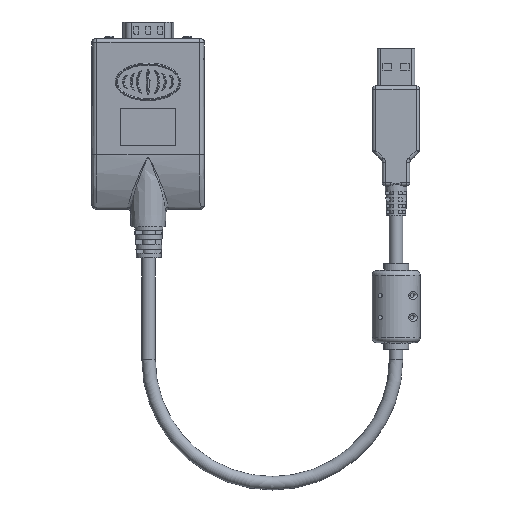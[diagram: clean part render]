
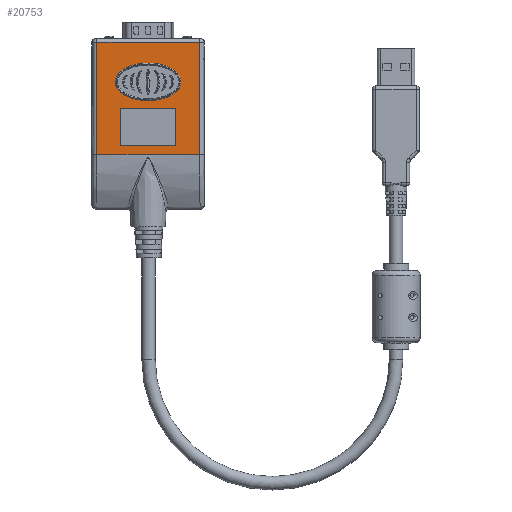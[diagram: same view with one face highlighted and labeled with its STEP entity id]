
A CAD part, front view. The second image highlights one B-rep face of the part: STEP entity #20753.
In plain terms, the highlighted planar face has unit normal (0, -0.999, -0.043).
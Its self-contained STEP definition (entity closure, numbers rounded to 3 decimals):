
#416=FACE_BOUND('',#3747,.T.);
#417=FACE_BOUND('',#3748,.T.);
#1083=PLANE('',#22701);
#1261=ELLIPSE('',#22699,10.5,6.);
#2419=FACE_OUTER_BOUND('',#3746,.T.);
#3746=EDGE_LOOP('',(#18902,#18903,#18904,#18905));
#3747=EDGE_LOOP('',(#18906,#18907,#18908,#18909));
#3748=EDGE_LOOP('',(#18910));
#6419=LINE('',#43467,#7924);
#6423=LINE('',#43475,#7928);
#6426=LINE('',#43481,#7931);
#6429=LINE('',#43486,#7934);
#6538=LINE('',#46642,#8043);
#6539=LINE('',#46644,#8044);
#6540=LINE('',#46646,#8045);
#6541=LINE('',#46647,#8046);
#7924=VECTOR('',#27497,10.);
#7928=VECTOR('',#27503,10.);
#7931=VECTOR('',#27508,10.);
#7934=VECTOR('',#27513,10.);
#8043=VECTOR('',#27944,10.);
#8044=VECTOR('',#27945,10.);
#8045=VECTOR('',#27946,10.);
#8046=VECTOR('',#27947,10.);
#9830=VERTEX_POINT('',#43465);
#9831=VERTEX_POINT('',#43466);
#9834=VERTEX_POINT('',#43474);
#9836=VERTEX_POINT('',#43480);
#10021=VERTEX_POINT('',#46008);
#10030=VERTEX_POINT('',#46640);
#10031=VERTEX_POINT('',#46641);
#10032=VERTEX_POINT('',#46643);
#10033=VERTEX_POINT('',#46645);
#12686=EDGE_CURVE('',#9830,#9831,#6419,.T.);
#12690=EDGE_CURVE('',#9834,#9830,#6423,.T.);
#12693=EDGE_CURVE('',#9836,#9834,#6426,.T.);
#12696=EDGE_CURVE('',#9831,#9836,#6429,.T.);
#12997=EDGE_CURVE('',#10021,#10021,#1261,.T.);
#13020=EDGE_CURVE('',#10030,#10031,#6538,.T.);
#13021=EDGE_CURVE('',#10032,#10030,#6539,.T.);
#13022=EDGE_CURVE('',#10033,#10032,#6540,.T.);
#13023=EDGE_CURVE('',#10031,#10033,#6541,.T.);
#18902=ORIENTED_EDGE('',*,*,#13020,.F.);
#18903=ORIENTED_EDGE('',*,*,#13021,.F.);
#18904=ORIENTED_EDGE('',*,*,#13022,.F.);
#18905=ORIENTED_EDGE('',*,*,#13023,.F.);
#18906=ORIENTED_EDGE('',*,*,#12686,.T.);
#18907=ORIENTED_EDGE('',*,*,#12696,.T.);
#18908=ORIENTED_EDGE('',*,*,#12693,.T.);
#18909=ORIENTED_EDGE('',*,*,#12690,.T.);
#18910=ORIENTED_EDGE('',*,*,#12997,.T.);
#20753=ADVANCED_FACE('',(#2419,#416,#417),#1083,.F.);
#22699=AXIS2_PLACEMENT_3D('',#46010,#27938,#27939);
#22701=AXIS2_PLACEMENT_3D('',#46639,#27942,#27943);
#27497=DIRECTION('',(0.,0.043,-0.999));
#27503=DIRECTION('',(1.,0.,0.));
#27508=DIRECTION('',(0.,-0.043,0.999));
#27513=DIRECTION('',(-1.,0.,0.));
#27938=DIRECTION('center_axis',(0.,0.999,
0.043));
#27939=DIRECTION('ref_axis',(-1.,0.,0.));
#27942=DIRECTION('center_axis',(0.,0.999,
0.043));
#27943=DIRECTION('ref_axis',(0.,0.043,-0.999));
#27944=DIRECTION('',(1.,0.,0.));
#27945=DIRECTION('',(0.002,-0.043,0.999));
#27946=DIRECTION('',(-1.,0.,0.));
#27947=DIRECTION('',(0.002,0.043,-0.999));
#43465=CARTESIAN_POINT('',(8.875,-7.141,-22.179));
#43466=CARTESIAN_POINT('',(8.875,-6.622,-34.168));
#43467=CARTESIAN_POINT('',(8.875,-7.62,-11.09));
#43474=CARTESIAN_POINT('',(-8.875,-7.141,-22.179));
#43475=CARTESIAN_POINT('',(-4.438,-7.141,-22.179));
#43480=CARTESIAN_POINT('',(-8.875,-6.622,-34.168));
#43481=CARTESIAN_POINT('',(-8.875,-7.361,-17.084));
#43486=CARTESIAN_POINT('',(4.437,-6.622,-34.168));
#46008=CARTESIAN_POINT('',(10.5,-7.506,-13.737));
#46010=CARTESIAN_POINT('Origin',(0.,-7.506,
-13.737));
#46639=CARTESIAN_POINT('Origin',(0.,-8.1,0.));
#46640=CARTESIAN_POINT('',(-16.367,-8.055,-1.043));
#46641=CARTESIAN_POINT('',(16.367,-8.055,-1.043));
#46642=CARTESIAN_POINT('',(0.,-8.055,-1.043));
#46643=CARTESIAN_POINT('',(-16.421,-6.5,-37.));
#46644=CARTESIAN_POINT('',(-16.365,-8.093,-0.164));
#46645=CARTESIAN_POINT('',(16.421,-6.5,-37.));
#46646=CARTESIAN_POINT('',(0.,-6.5,-37.));
#46647=CARTESIAN_POINT('',(16.365,-8.1,0.011));
